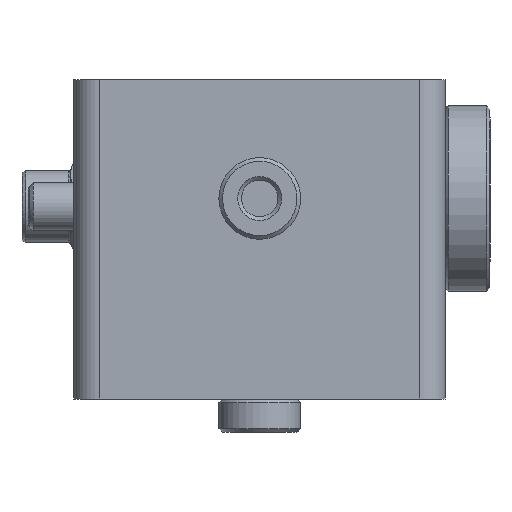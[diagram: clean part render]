
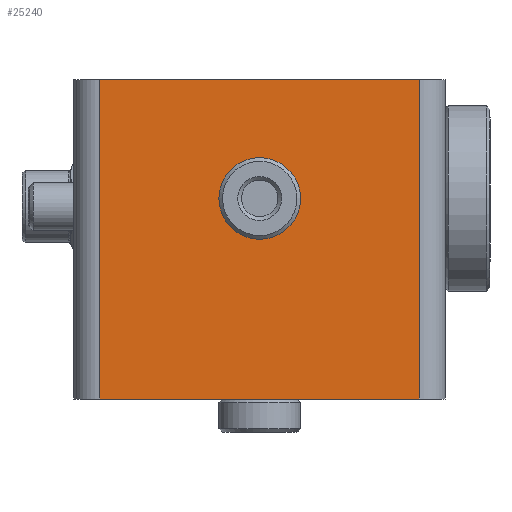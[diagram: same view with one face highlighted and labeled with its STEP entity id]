
A CAD part, left-side view. The second image highlights one B-rep face of the part: STEP entity #25240.
In plain terms, the highlighted planar face has unit normal (-1, 0, 0).
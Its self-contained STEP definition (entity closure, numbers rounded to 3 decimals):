
#451=FACE_BOUND('',#7674,.T.);
#1308=LINE('',#37422,#3458);
#1309=LINE('',#37424,#3459);
#1310=LINE('',#37426,#3460);
#1311=LINE('',#37427,#3461);
#3458=VECTOR('',#29523,10.);
#3459=VECTOR('',#29524,10.);
#3460=VECTOR('',#29525,10.);
#3461=VECTOR('',#29526,10.);
#5335=PLANE('',#26892);
#6254=FACE_OUTER_BOUND('',#7673,.T.);
#7673=EDGE_LOOP('',(#18073,#18074,#18075,#18076));
#7674=EDGE_LOOP('',(#18077));
#10015=CIRCLE('',#26893,5.);
#11029=VERTEX_POINT('',#37420);
#11030=VERTEX_POINT('',#37421);
#11031=VERTEX_POINT('',#37423);
#11032=VERTEX_POINT('',#37425);
#11033=VERTEX_POINT('',#37428);
#13745=EDGE_CURVE('',#11029,#11030,#1308,.T.);
#13746=EDGE_CURVE('',#11031,#11030,#1309,.T.);
#13747=EDGE_CURVE('',#11032,#11031,#1310,.T.);
#13748=EDGE_CURVE('',#11029,#11032,#1311,.T.);
#13749=EDGE_CURVE('',#11033,#11033,#10015,.T.);
#18073=ORIENTED_EDGE('',*,*,#13745,.T.);
#18074=ORIENTED_EDGE('',*,*,#13746,.F.);
#18075=ORIENTED_EDGE('',*,*,#13747,.F.);
#18076=ORIENTED_EDGE('',*,*,#13748,.F.);
#18077=ORIENTED_EDGE('',*,*,#13749,.T.);
#25240=ADVANCED_FACE('',(#6254,#451),#5335,.T.);
#26892=AXIS2_PLACEMENT_3D('',#37419,#29521,#29522);
#26893=AXIS2_PLACEMENT_3D('',#37429,#29527,#29528);
#29521=DIRECTION('center_axis',(-1.,0.,0.));
#29522=DIRECTION('ref_axis',(0.,-1.,0.));
#29523=DIRECTION('',(0.,0.,-1.));
#29524=DIRECTION('',(0.,1.,0.));
#29525=DIRECTION('',(0.,0.,-1.));
#29526=DIRECTION('',(0.,-1.,0.));
#29527=DIRECTION('center_axis',(1.,0.,0.));
#29528=DIRECTION('ref_axis',(0.,0.,
-1.));
#37419=CARTESIAN_POINT('Origin',(-93.567,-7.942,100.822));
#37420=CARTESIAN_POINT('',(-93.567,-11.442,140.822));
#37421=CARTESIAN_POINT('',(-93.567,-11.442,97.822));
#37422=CARTESIAN_POINT('',(-93.567,-11.442,100.822));
#37423=CARTESIAN_POINT('',(-93.567,-54.442,97.822));
#37424=CARTESIAN_POINT('',(-93.567,-11.442,97.822));
#37425=CARTESIAN_POINT('',(-93.567,-54.442,140.822));
#37426=CARTESIAN_POINT('',(-93.567,-54.442,100.822));
#37427=CARTESIAN_POINT('',(-93.567,-11.442,140.822));
#37428=CARTESIAN_POINT('',(-93.567,-32.942,129.822));
#37429=CARTESIAN_POINT('Origin',(-93.567,-32.942,124.822));
